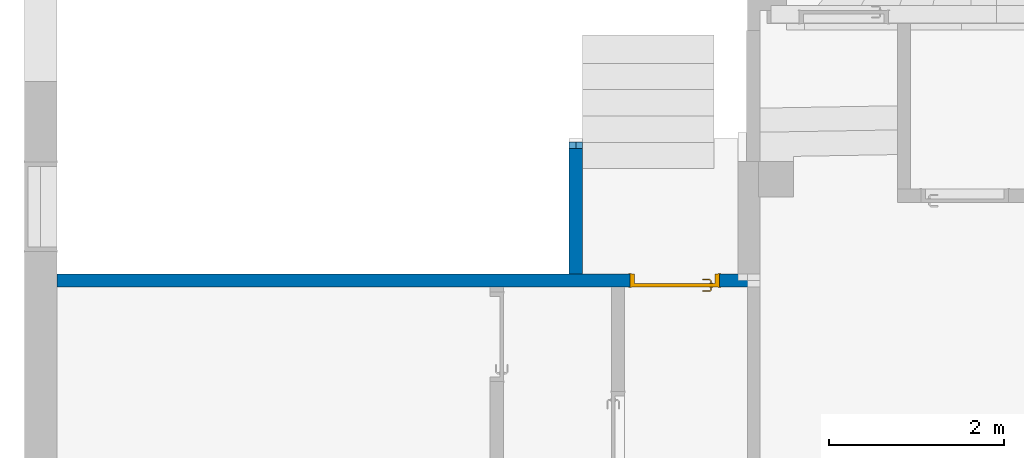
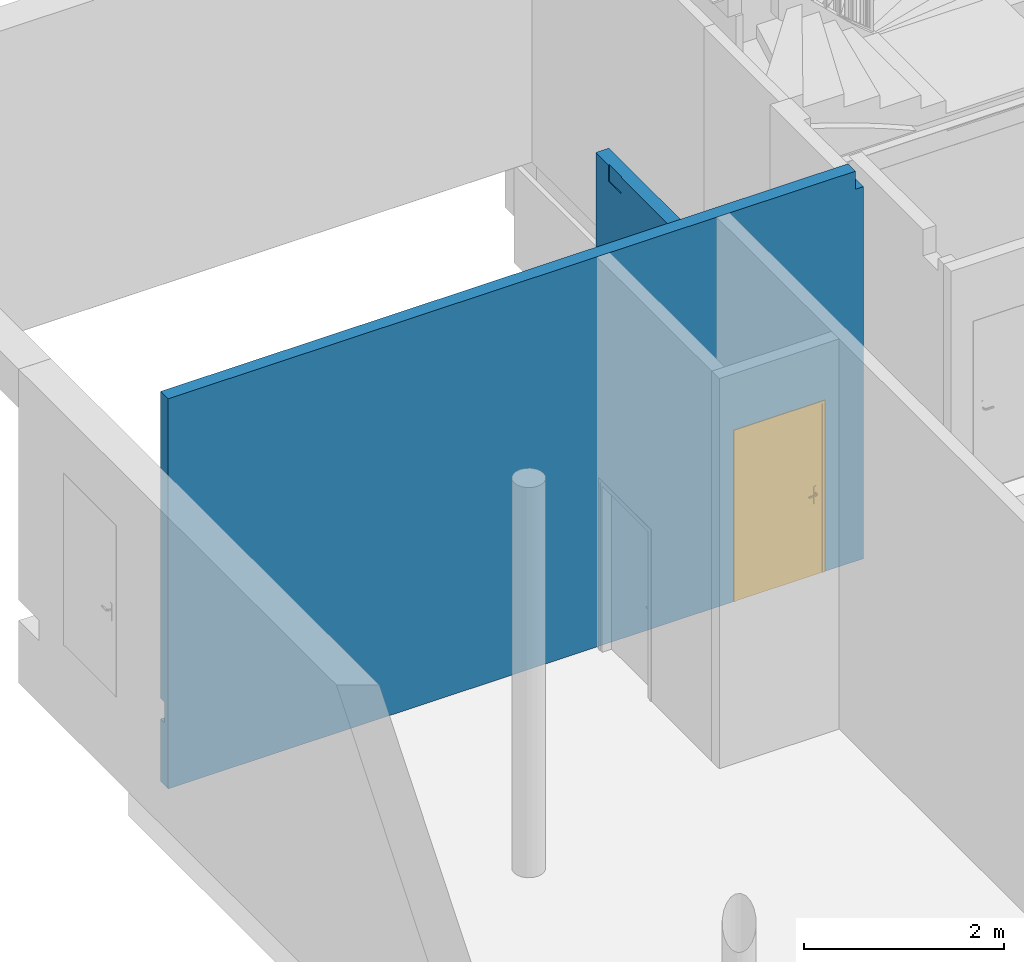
# One storey, part 26 of 39: 2 walls, 1 door, 2 openings.
"""IFC4 building model written with IfcOpenShell, lengths in metres."""

from ifc_helpers import new_model, entity, si_unit, converted_unit, derived_unit, direction, frame, origin, place, context, subcontext, project, spatial, indexed_curve, outline, extrude, polygons, source, transform, mapped, material, material_list, layer, layer_set, constituent, constituent_set, type_object, type_shapes, element, fill, save


model = new_model("IFC4")

# Units and contexts
model_context = context("Model", 3, precision=1e-05, world=origin(), true_north=direction((6.12303176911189e-17, 1.0)))
body_context = subcontext(model_context, "Body", "Model", "MODEL_VIEW")
ifc_project = project(units=[si_unit("LENGTHUNIT", "METRE"), si_unit("AREAUNIT", "SQUARE_METRE"), si_unit("VOLUMEUNIT", "CUBIC_METRE"), converted_unit("PLANEANGLEUNIT", "DEGREE", entity("IfcRatioMeasure", 0.0174532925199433), si_unit("PLANEANGLEUNIT", "RADIAN"), dimensions=[0, 0, 0, 0, 0, 0, 0]), si_unit("MASSUNIT", "GRAM", prefix="KILO"), derived_unit("MASSDENSITYUNIT", [(si_unit("MASSUNIT", "GRAM", prefix="KILO"), 1), (si_unit("LENGTHUNIT", "METRE"), -3)]), derived_unit("MOMENTOFINERTIAUNIT", [(si_unit("LENGTHUNIT", "METRE"), 4)]), si_unit("TIMEUNIT", "SECOND"), si_unit("FREQUENCYUNIT", "HERTZ"), si_unit("THERMODYNAMICTEMPERATUREUNIT", "DEGREE_CELSIUS"), derived_unit("THERMALTRANSMITTANCEUNIT", [(si_unit("MASSUNIT", "GRAM", prefix="KILO"), 1), (si_unit("THERMODYNAMICTEMPERATUREUNIT", "KELVIN"), -1), (si_unit("TIMEUNIT", "SECOND"), -3)]), derived_unit("VOLUMETRICFLOWRATEUNIT", [(si_unit("LENGTHUNIT", "METRE"), 3), (si_unit("TIMEUNIT", "SECOND"), -1)]), si_unit("ELECTRICCURRENTUNIT", "AMPERE"), si_unit("ELECTRICVOLTAGEUNIT", "VOLT"), si_unit("POWERUNIT", "WATT"), si_unit("FORCEUNIT", "NEWTON", prefix="KILO"), si_unit("ILLUMINANCEUNIT", "LUX"), si_unit("LUMINOUSFLUXUNIT", "LUMEN"), si_unit("LUMINOUSINTENSITYUNIT", "CANDELA"), derived_unit("USERDEFINED", [(si_unit("MASSUNIT", "GRAM", prefix="KILO"), -1), (si_unit("LENGTHUNIT", "METRE"), -2), (si_unit("TIMEUNIT", "SECOND"), 3), (si_unit("LUMINOUSFLUXUNIT", "LUMEN"), 1)]), derived_unit("LINEARVELOCITYUNIT", [(si_unit("LENGTHUNIT", "METRE"), 1), (si_unit("TIMEUNIT", "SECOND"), -1)]), si_unit("PRESSUREUNIT", "PASCAL"), derived_unit("USERDEFINED", [(si_unit("LENGTHUNIT", "METRE"), -2), (si_unit("MASSUNIT", "GRAM", prefix="KILO"), 1), (si_unit("TIMEUNIT", "SECOND"), -2)]), derived_unit("LINEARFORCEUNIT", [(si_unit("MASSUNIT", "GRAM", prefix="KILO"), 1), (si_unit("LENGTHUNIT", "METRE"), 1), (si_unit("TIMEUNIT", "SECOND"), -2), (si_unit("LENGTHUNIT", "METRE"), -1)]), derived_unit("PLANARFORCEUNIT", [(si_unit("MASSUNIT", "GRAM", prefix="KILO"), 1), (si_unit("LENGTHUNIT", "METRE"), 1), (si_unit("TIMEUNIT", "SECOND"), -2), (si_unit("LENGTHUNIT", "METRE"), -2)])], contexts=[model_context])

# Site, building, storey
site_placement = place(None, origin())
site = spatial("IfcSite", under=ifc_project, at=site_placement, Name="Default", CompositionType="ELEMENT")
building_placement = place(site_placement, origin())
building = spatial("IfcBuilding", under=site, at=building_placement, Name="HOTEL CONSULAIRE BOULOGNE SUR MER", CompositionType="ELEMENT")
storey_placement = place(building_placement, frame((0.0, 0.0, -5.02343668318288)))
storey = spatial("IfcBuildingStorey", under=building, at=storey_placement, Name="SS3", CompositionType="ELEMENT", Elevation=-5.02343668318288)

# Wall
ifc_material_1 = material(Name="Mur par défaut", Category="Divers")
ifc_layer = layer(ifc_material_1, 0.15, Name="Mur par défaut", Category="Divers")
ifc_layer_set = layer_set([ifc_layer], Name="Mur de base:Générique - Int. 150 mm")
wall_type = type_object("IfcWallType", Name="Mur de base:Générique - Int. 150 mm", PredefinedType="NOTDEFINED", material=ifc_layer_set)
wall_1_placement = place(storey_placement, frame((-7.55998856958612, -15.1715756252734, 0.0), z_axis=(0.0, 0.0, 1.0), x_axis=(0.0, -1.0, 0.0)))
element("IfcWall", 1, at=wall_1_placement, inside=storey, type_object=wall_type, material=ifc_layer_set, Name="Mur de base:Générique - Int. 150 mm", ObjectType="Mur de base:Générique - Int. 150 mm", PredefinedType="NOTDEFINED", context=body_context, shape_type="Tessellation", body=[
    polygons([(1.5030086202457, -0.0749999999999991, 1.01340592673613), (1.5030086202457, -0.0749999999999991, 4.75343668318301), (0.576334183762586, -0.0749999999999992, 4.75343668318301), (0.576334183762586, -0.0749999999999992, 4.55343668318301), (0.326334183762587, -0.0749999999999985, 4.55343668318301), (0.326334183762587, -0.0749999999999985, 4.75343668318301), (0.0750000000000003, -0.0749999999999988, 4.75343668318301), (0.0750000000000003, -0.0749999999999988, 1.01340592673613), (0.0, -0.0749999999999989, 0.0), (1.5030086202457, -0.0749999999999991, 0.0), (1.5030086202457, -0.0749999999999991, 0.763405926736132), (0.0, -0.0749999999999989, 0.763405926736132), (1.5030086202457, 0.0750000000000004, 0.0), (0.0, 0.0750000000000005, 0.0), (0.0, 0.0750000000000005, 0.763405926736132), (0.0, 0.0750000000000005, 1.01340592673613), (0.0750000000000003, 0.0750000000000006, 1.01340592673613), (0.0750000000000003, 0.0750000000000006, 4.75343668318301), (1.5030086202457, 0.0750000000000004, 4.75343668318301), (0.0, -0.0249999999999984, 0.0), (0.326334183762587, -0.0624805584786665, 4.75343668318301), (0.576334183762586, -0.0624805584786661, 4.75343668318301), (1.5030086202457, -9.38082501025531e-16, 1.01340592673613), (1.5030086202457, -9.38082501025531e-16, 0.763405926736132), (0.0, -8.35148925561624e-16, 0.763405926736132), (-2.16573425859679e-15, -0.0249999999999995, 0.763405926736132), (0.0750000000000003, -7.32215350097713e-16, 1.01340592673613), (0.0, -8.35148925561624e-16, 1.01340592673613), (0.576334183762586, -0.0624805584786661, 4.55343668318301), (0.326334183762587, -0.0624805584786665, 4.55343668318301)], [[[8, 1, 2, 3, 4, 5, 6, 7]], [[12, 9, 10, 11]], [[27, 28, 25, 24, 23]], [[29, 22, 21, 30]], [[19, 13, 14, 15, 16, 17, 18]], [[10, 9, 20, 14, 13]], [[8, 27, 23, 1]], [[3, 2, 19, 18, 7, 6, 21, 22]], [[26, 12, 11, 24, 25]], [[28, 27, 17, 16]], [[4, 29, 30, 5]], [[23, 24, 11, 10, 13, 19, 2, 1]], [[5, 30, 21, 6]], [[12, 26, 25, 28, 16, 15, 14, 20, 9]], [[27, 8, 7, 18, 17]], [[3, 22, 29, 4]]], closed=True),
])

# Wall, openings, door
wall_2_placement = place(storey_placement, frame((-13.4753496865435, -16.749584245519, 0.0)))
wall_2 = element("IfcWall", 2, at=wall_2_placement, inside=storey, type_object=wall_type, material=ifc_layer_set, Name="Mur de base:Générique - Int. 150 mm", ObjectType="Mur de base:Générique - Int. 150 mm", PredefinedType="NOTDEFINED", context=body_context, shape_type="Tessellation", body=[
    polygons([(8.01336111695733, 0.0749999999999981, 0.0), (8.01336111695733, -2.16573425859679e-15, 0.0), (8.01336111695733, -0.0750000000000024, 0.0), (7.87336111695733, -0.0750000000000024, 0.0), (7.55336111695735, -0.0750000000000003, 0.0), (7.55336111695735, 0.0750000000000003, 0.0), (7.76336111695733, 0.0749999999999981, 0.0), (-4.11668793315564e-16, -0.0750000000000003, 4.75343668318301), (-4.11668793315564e-16, -0.0750000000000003, 0.0), (4.93991151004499, -0.0750000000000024, 0.0), (5.08991151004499, -0.0750000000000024, 0.0), (6.32136111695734, -0.0750000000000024, 0.0), (6.47136111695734, -0.0750000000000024, 0.0), (6.53336111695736, -0.0750000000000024, 0.0), (6.53336111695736, -0.0750000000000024, 2.07500000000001), (7.55336111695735, -0.0750000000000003, 2.07500000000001), (8.01336111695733, -0.0750000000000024, 2.31999999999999), (8.01336111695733, -0.0750000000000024, 4.53343668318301), (7.95336111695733, -0.0750000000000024, 4.53343668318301), (7.92084154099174, -0.0750000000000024, 4.53343668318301), (7.92084154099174, -0.0750000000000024, 4.75343668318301), (7.87336111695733, -0.0750000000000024, 4.75343668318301), (6.47136111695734, -0.0750000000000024, 4.75343668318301), (6.32136111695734, -0.0750000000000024, 4.75343668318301), (5.08991151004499, -0.0750000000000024, 4.75343668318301), (4.93991151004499, -0.0750000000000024, 4.75343668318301), (-9.29332308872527e-16, 0.0750000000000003, 0.0), (-9.29332308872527e-16, 0.0750000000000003, 0.763405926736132), (5.84036111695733, 0.0749999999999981, 0.763405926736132), (5.91536111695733, 0.0749999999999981, 0.763405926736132), (5.91536111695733, 0.0749999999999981, 1.01340592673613), (5.84036111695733, 0.0749999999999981, 1.01340592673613), (-9.29332308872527e-16, 0.0750000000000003, 1.01340592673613), (-9.29332308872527e-16, 0.0750000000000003, 4.75343668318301), (5.84036111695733, 0.0749999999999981, 4.75343668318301), (5.99036111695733, 0.0749999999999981, 4.75343668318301), (7.76336111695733, 0.0749999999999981, 4.75343668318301), (7.92084154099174, 0.0749999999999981, 4.75343668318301), (7.92084154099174, 0.0749999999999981, 4.53343668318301), (8.01336111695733, 0.0749999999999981, 4.53343668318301), (8.01336111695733, 0.0749999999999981, 2.53499999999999), (8.01336111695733, 0.0749999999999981, 2.36499999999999), (7.55336111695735, 0.0750000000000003, 2.07500000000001), (6.53336111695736, 0.0749999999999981, 2.07500000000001), (6.53336111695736, 0.0749999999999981, 0.0), (5.99036111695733, 0.0749999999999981, 0.0), (5.84036111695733, 0.0749999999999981, 0.0), (-6.70500551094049e-16, 0.0, 1.01340592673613), (-6.70500551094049e-16, 0.0, 0.763405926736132), (5.91536111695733, 0.0, 0.763405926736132), (5.91536111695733, 0.0, 1.01340592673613)], [[[4, 5, 6, 7, 1, 2, 3]], [[45, 14, 13, 12, 11, 10, 9, 27, 47, 46]], [[32, 31, 51, 48, 33]], [[15, 44, 43, 16]], [[9, 10, 11, 12, 13, 14, 15, 16, 5, 4, 3, 17, 18, 19, 20, 21, 22, 23, 24, 25, 26, 8]], [[43, 44, 45, 46, 47, 27, 28, 29, 30, 31, 32, 33, 34, 35, 36, 37, 38, 39, 40, 41, 42, 1, 7, 6]], [[51, 50, 49, 48]], [[24, 23, 22, 21, 38, 37, 36, 35, 34, 8, 26, 25]], [[29, 28, 49, 50, 30]], [[40, 39, 20, 19, 18]], [[48, 49, 28, 27, 9, 8, 34, 33]], [[31, 30, 50, 51]], [[16, 43, 6, 5]], [[14, 45, 44, 15]], [[3, 2, 1, 42, 41, 40, 18, 17]], [[38, 21, 20, 39]]], closed=True),
])
opening_1_placement = place(storey_placement, frame((-13.4753496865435, -16.749584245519, 0.0)))
element("IfcOpeningElement", 3, at=opening_1_placement, cuts=wall_2, Name="Mur de base:Générique - Int. 150 mm:1", ObjectType="Opening", PredefinedType="OPENING", context=body_context, shape_type="SweptSolid", body=[
    extrude(outline(indexed_curve([(-3.5342166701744, -0.0449999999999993), (2.38114444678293, -0.0449999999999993), (2.38114444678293, 0.0299999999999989), (2.30614444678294, 0.0299999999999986), (-3.5342166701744, 0.030000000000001), (-3.5342166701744, -0.0449999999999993)], self_intersect=False)), frame((3.5342166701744, 0.0449999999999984, 0.763405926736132)), (0.0, 0.0, 1.0), 0.25),
])
opening_2_placement = place(wall_2_placement, frame((7.55336111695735, 0.0749999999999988, 0.0)))
opening_2 = element("IfcOpeningElement", 4, at=opening_2_placement, cuts=wall_2, Name="Int. Simple:PP0.95x2.04 2:1", ObjectType="Opening", PredefinedType="OPENING", context=body_context, shape_type="SweptSolid", body=[
    extrude(outline(indexed_curve([(0.0, 1.02), (0.0, -2.8028040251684e-30), (2.07500000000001, -2.8028040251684e-30), (2.07500000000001, 1.02), (0.0, 1.02)], self_intersect=False)), frame((0.0, 0.0, 0.0), z_axis=(0.0, -1.0, 0.0), x_axis=(0.0, 0.0, 1.0)), (0.0, 0.0, 1.0), 0.15),
])
ifc_material_2 = material(Name="Finition Peinture - Blanc satiné", Category="Peinture")
ifc_constituent_1 = constituent(ifc_material_2, Name="Finition Peinture - Blanc satiné", Category="Matériaux")
ifc_material_3 = material(Name="Bois - Panneau de porte", Category="Bois")
ifc_constituent_2 = constituent(ifc_material_3, Name="Bois - Panneau de porte", Category="Matériaux")
ifc_material_4 = material(Name="Bois - Cadre de porte", Category="Bois")
ifc_constituent_3 = constituent(ifc_material_4, Name="Bois - Cadre de porte", Category="Matériaux")
ifc_constituent_set = constituent_set(constituents=[ifc_constituent_1, ifc_constituent_2, ifc_constituent_3], Name="MaterialConstituentSet")
ifc_material_list = material_list([ifc_material_4, ifc_material_4, ifc_material_3, ifc_material_2])
door_type = type_object("IfcDoorType", Name="Int. Simple:PP0.95x2.04 2", OperationType="NOTDEFINED", PredefinedType="DOOR", material=ifc_material_list)
shared_shape = source(origin(), body_context, "Body", "Tessellation", [
    polygons([(1.01500000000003, -0.00500000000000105, 0.870000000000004), (1.01500000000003, -0.00500000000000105, 1.08), (1.00535276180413, -0.00500000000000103, 1.08399601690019), (0.99500000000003, -0.00500000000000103, 1.08535898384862), (0.984647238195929, -0.00500000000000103, 1.08399601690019), (0.97500000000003, -0.00500000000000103, 1.08), (0.975000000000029, -0.00500000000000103, 0.870000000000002), (0.984647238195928, -0.00500000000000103, 0.866003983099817), (0.995000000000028, -0.00500000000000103, 0.86464101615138), (1.00535276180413, -0.00500000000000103, 0.866003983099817), (1.01500000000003, -1.04902753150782e-15, 0.870000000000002), (1.00535276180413, -1.04902753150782e-15, 0.866003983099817), (0.995000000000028, -1.04056763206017e-15, 0.86464101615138), (0.984647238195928, -1.04056763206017e-15, 0.866003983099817), (0.975000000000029, -1.03210773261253e-15, 0.870000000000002), (0.97500000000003, -1.03210773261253e-15, 1.08), (0.984647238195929, -1.04056763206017e-15, 1.08399601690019), (0.99500000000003, -1.04056763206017e-15, 1.08535898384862), (1.00535276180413, -1.04902753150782e-15, 1.08399601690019), (1.01500000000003, -1.04902753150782e-15, 1.08)], [[[1, 2, 3, 4, 5, 6, 7, 8, 9, 10]], [[20, 11, 12, 13, 14, 15, 16, 17, 18, 19]], [[10, 12, 11, 1]], [[9, 13, 12, 10]], [[8, 14, 13, 9]], [[8, 7, 15, 14]], [[15, 7, 6, 16]], [[5, 17, 16, 6]], [[4, 18, 17, 5]], [[3, 19, 18, 4]], [[3, 2, 20, 19]], [[11, 20, 2, 1]]], closed=True),
    polygons([(0.97500000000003, 0.0399999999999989, 1.08), (0.975000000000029, 0.0399999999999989, 0.870000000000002), (0.984647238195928, 0.0399999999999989, 0.866003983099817), (0.995000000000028, 0.0399999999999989, 0.86464101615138), (1.00535276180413, 0.0399999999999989, 0.866003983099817), (1.01500000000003, 0.0399999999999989, 0.870000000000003), (1.01500000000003, 0.0399999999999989, 1.08), (1.00535276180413, 0.0399999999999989, 1.08399601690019), (0.99500000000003, 0.0399999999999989, 1.08535898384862), (0.984647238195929, 0.0399999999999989, 1.08399601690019), (0.97500000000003, 0.044999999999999, 1.08), (0.984647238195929, 0.0449999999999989, 1.08399601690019), (0.99500000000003, 0.0449999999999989, 1.08535898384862), (1.00535276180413, 0.0449999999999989, 1.08399601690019), (1.01500000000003, 0.0449999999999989, 1.08), (1.01500000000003, 0.0449999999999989, 0.870000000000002), (1.00535276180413, 0.0449999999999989, 0.866003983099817), (0.995000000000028, 0.0449999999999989, 0.86464101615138), (0.984647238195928, 0.0449999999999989, 0.866003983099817), (0.975000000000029, 0.044999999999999, 0.870000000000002)], [[[6, 7, 8, 9, 10, 1, 2, 3, 4, 5]], [[13, 14, 15, 16, 17, 18, 19, 20, 11, 12]], [[10, 12, 11, 1]], [[9, 13, 12, 10]], [[8, 14, 13, 9]], [[8, 7, 15, 14]], [[16, 15, 7, 6]], [[5, 17, 16, 6]], [[4, 18, 17, 5]], [[3, 19, 18, 4]], [[3, 2, 20, 19]], [[20, 2, 1, 11]]], closed=True),
    polygons([(1.00100000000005, -0.00500000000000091, 1.00699999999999), (1.00100000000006, -0.00500000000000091, 0.992999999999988), (0.997025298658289, -0.00500000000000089, 0.99221955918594), (0.99297470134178, -0.00500000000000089, 0.992219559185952), (0.989000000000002, -0.00500000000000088, 0.993000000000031), (0.989000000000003, -0.00500000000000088, 1.007), (0.992974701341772, -0.00500000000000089, 1.00778044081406), (0.997025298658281, -0.00500000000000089, 1.00778044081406), (0.989000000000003, -0.0276803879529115, 1.007), (0.992974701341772, -0.0293267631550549, 1.00778044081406), (0.997025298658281, -0.0310045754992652, 1.00778044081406), (1.00100000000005, -0.0326509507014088, 1.007), (0.989000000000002, -0.0276803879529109, 0.993000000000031), (1.00100000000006, -0.0326509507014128, 0.992999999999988), (0.997025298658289, -0.0310045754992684, 0.99221955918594), (0.99297470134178, -0.0293267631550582, 0.992219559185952), (0.977652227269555, -0.0390281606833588, 1.007), (0.979298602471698, -0.0430028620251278, 1.00778044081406), (0.980976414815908, -0.0470534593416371, 1.00778044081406), (0.982622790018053, -0.051028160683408, 1.007), (0.977652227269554, -0.0390281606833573, 0.993000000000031), (0.982622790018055, -0.0510281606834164, 0.992999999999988), (0.980976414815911, -0.0470534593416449, 0.99221955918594), (0.979298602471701, -0.0430028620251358, 0.992219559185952), (0.894981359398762, -0.0510281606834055, 1.007), (0.894981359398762, -0.0470534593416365, 1.00778044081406), (0.894981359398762, -0.0430028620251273, 1.00778044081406), (0.894981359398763, -0.0390281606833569, 1.00699999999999), (0.894981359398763, -0.0390281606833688, 0.993000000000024), (0.894981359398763, -0.0430028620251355, 0.992219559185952), (0.894981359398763, -0.0470534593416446, 0.99221955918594), (0.894981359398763, -0.0510281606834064, 0.992999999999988), (0.942692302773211, -0.051028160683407, 1.007), (0.937139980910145, -0.045028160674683, 1.0078786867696), (0.936316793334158, -0.0390281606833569, 1.007), (0.942692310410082, -0.0510281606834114, 0.992999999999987), (0.937139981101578, -0.0450281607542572, 0.992121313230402), (0.936316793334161, -0.0390281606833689, 0.993000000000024)], [[[7, 8, 1, 2, 3, 4, 5, 6]], [[17, 21, 38, 29, 28, 35]], [[1, 8, 11, 12]], [[8, 7, 10, 18, 19, 11]], [[7, 6, 9, 10]], [[13, 9, 6, 5]], [[25, 26, 27, 28, 29, 30, 31, 32]], [[4, 16, 13, 5]], [[4, 3, 15, 23, 24, 16]], [[2, 14, 15, 3]], [[12, 14, 2, 1]], [[12, 11, 19, 20]], [[10, 9, 17, 18]], [[21, 17, 9, 13]], [[13, 16, 24, 21]], [[15, 14, 22, 23]], [[20, 22, 14, 12]], [[34, 26, 33]], [[33, 26, 25]], [[33, 20, 19]], [[18, 35, 34]], [[35, 18, 17]], [[28, 27, 35]], [[34, 27, 26]], [[34, 35, 27]], [[34, 33, 19]], [[18, 34, 19]], [[37, 30, 38]], [[31, 37, 36]], [[24, 38, 21]], [[30, 29, 38]], [[31, 36, 32]], [[36, 23, 22]], [[37, 23, 36]], [[37, 24, 23]], [[37, 38, 24]], [[30, 37, 31]], [[22, 20, 33, 25, 32, 36]]], closed=True),
    polygons([(0.989000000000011, 0.0449999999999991, 0.993000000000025), (0.992974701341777, 0.0449999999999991, 0.992219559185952), (0.997025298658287, 0.0449999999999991, 0.99221955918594), (1.00100000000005, 0.0449999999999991, 0.992999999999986), (1.00100000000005, 0.0449999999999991, 1.007), (0.997025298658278, 0.0449999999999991, 1.00778044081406), (0.992974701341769, 0.0449999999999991, 1.00778044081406), (0.988999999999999, 0.0449999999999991, 1.007), (0.988999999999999, 0.067485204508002, 1.007), (0.988999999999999, 0.0674852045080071, 0.993000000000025), (1.00100000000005, 0.0724557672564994, 1.007), (0.997025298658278, 0.070809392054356, 1.00778044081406), (0.992974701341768, 0.0691315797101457, 1.00778044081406), (1.00100000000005, 0.0724557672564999, 0.992999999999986), (0.992974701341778, 0.0691315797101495, 0.992219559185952), (0.997025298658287, 0.0708093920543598, 0.99221955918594), (0.97751471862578, 0.0789704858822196, 1.007), (0.977514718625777, 0.0789704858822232, 0.993000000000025), (0.982485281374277, 0.0909704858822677, 1.007), (0.980838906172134, 0.0869957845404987, 1.00778044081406), (0.979161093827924, 0.0829451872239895, 1.00778044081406), (0.982485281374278, 0.0909704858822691, 0.992999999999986), (0.979161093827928, 0.0829451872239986, 0.992219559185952), (0.980838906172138, 0.0869957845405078, 0.99221955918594), (0.894954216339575, 0.0789704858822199, 0.993000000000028), (0.894954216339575, 0.0789704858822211, 1.007), (0.894954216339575, 0.0829451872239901, 1.00778044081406), (0.894954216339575, 0.0869957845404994, 1.00778044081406), (0.894954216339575, 0.0909704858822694, 1.007), (0.894954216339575, 0.0909704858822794, 0.992999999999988), (0.894954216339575, 0.086995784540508, 0.99221955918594), (0.894954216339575, 0.0829451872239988, 0.992219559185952), (0.94255479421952, 0.0909704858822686, 1.007), (0.937057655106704, 0.0849704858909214, 1.0078786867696), (0.936234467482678, 0.0789704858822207, 1.007), (0.942554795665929, 0.0909704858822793, 0.992999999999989), (0.937057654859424, 0.0849704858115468, 0.992121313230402), (0.936234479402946, 0.0789704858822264, 0.993000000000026)], [[[2, 3, 4, 5, 6, 7, 8, 1]], [[18, 17, 35, 26, 25, 38]], [[9, 10, 1, 8]], [[27, 28, 29, 30, 31, 32, 25, 26]], [[7, 13, 9, 8]], [[7, 6, 12, 20, 21, 13]], [[5, 11, 12, 6]], [[11, 5, 4, 14]], [[4, 3, 16, 14]], [[3, 2, 15, 23, 24, 16]], [[2, 1, 10, 15]], [[17, 18, 10, 9]], [[9, 13, 21, 17]], [[11, 19, 20, 12]], [[22, 19, 11, 14]], [[14, 16, 24, 22]], [[15, 10, 18, 23]], [[34, 27, 35]], [[28, 34, 33]], [[21, 35, 17]], [[27, 26, 35]], [[28, 33, 29]], [[33, 20, 19]], [[34, 20, 33]], [[34, 21, 20]], [[34, 35, 21]], [[27, 34, 28]], [[19, 22, 36, 30, 29, 33]], [[37, 31, 36]], [[36, 31, 30]], [[36, 22, 24]], [[23, 38, 37]], [[38, 23, 18]], [[25, 32, 38]], [[37, 32, 31]], [[37, 38, 32]], [[37, 36, 24]], [[23, 37, 24]]], closed=True),
    polygons([(1.05500000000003, 0.04, 2.04), (1.05500000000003, 0.04, 0.0), (0.105000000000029, 0.04, 0.0), (0.105000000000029, 0.04, 2.04), (1.05500000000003, 5.07593966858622e-17, 2.04), (0.105000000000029, 5.07593966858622e-17, 2.04), (0.105000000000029, 5.07593966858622e-17, 0.0), (1.05500000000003, 5.07593966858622e-17, 0.0)], [[[4, 1, 2, 3]], [[5, 6, 7, 8]], [[5, 1, 4, 6]], [[6, 4, 3, 7]], [[7, 3, 2, 8]], [[8, 2, 1, 5]]], closed=True),
    polygons([(1.09000000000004, 1.69197988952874e-17, 0.0), (1.05500000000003, 1.69197988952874e-17, 0.0), (1.05500000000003, 0.0400000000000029, 0.0), (1.04000000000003, 0.0400000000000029, 0.0), (1.04000000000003, 0.150000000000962, 0.0), (1.09000000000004, 0.150000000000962, 0.0), (1.09000000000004, 0.150000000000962, 2.07500000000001), (1.09000000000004, 1.69197988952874e-17, 2.07500000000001), (1.04000000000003, 0.150000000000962, 2.025), (0.120000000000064, 0.150000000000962, 2.02499999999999), (0.120000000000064, 0.150000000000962, -4.03399441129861e-24), (0.0700000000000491, 0.150000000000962, 0.0), (0.0700000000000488, 0.150000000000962, 2.07500000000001), (1.04000000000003, 0.0400000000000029, 2.025), (1.05500000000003, 0.0400000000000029, 2.04), (0.105000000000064, 0.0400000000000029, 2.04), (0.105000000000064, 0.0400000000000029, -4.10371669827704e-24), (0.120000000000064, 0.0400000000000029, -1.38450562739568e-24), (0.120000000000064, 0.0400000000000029, 2.025), (1.05500000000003, 1.69197988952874e-17, 2.04), (0.0700000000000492, 1.69197988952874e-17, 2.07500000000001), (0.0700000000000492, 1.69197988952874e-17, -2.45203524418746e-24), (0.105000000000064, 1.69197988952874e-17, -8.70076159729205e-25), (0.105000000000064, 1.69197988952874e-17, 2.04)], [[[5, 6, 1, 2, 3, 4]], [[17, 23, 22, 12, 11, 18]], [[19, 10, 9, 14]], [[24, 16, 15, 20]], [[7, 8, 1, 6]], [[18, 11, 10, 19]], [[17, 16, 24, 23]], [[9, 10, 11, 12, 13, 7, 6, 5]], [[9, 5, 4, 14]], [[15, 3, 2, 20]], [[12, 22, 21, 13]], [[19, 14, 4, 3, 15, 16, 17, 18]], [[24, 20, 2, 1, 8, 21, 22, 23]], [[13, 21, 8, 7]]], closed=True),
    polygons([(1.07500000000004, 0.150000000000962, 0.0), (1.07500000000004, 0.155000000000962, 0.0), (1.10500000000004, 0.155000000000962, 0.0), (1.10500000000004, 0.150000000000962, 0.0), (1.10500000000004, 0.150000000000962, 2.09000000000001), (0.0550000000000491, 0.150000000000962, 2.09000000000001), (0.0550000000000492, 0.150000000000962, 3.21152985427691e-24), (0.0850000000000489, 0.150000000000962, 7.44135198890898e-25), (0.0850000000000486, 0.150000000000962, 2.06000000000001), (1.07500000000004, 0.150000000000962, 2.06000000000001), (1.10500000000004, 0.155000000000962, 2.09000000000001), (1.07500000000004, 0.155000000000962, 2.06000000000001), (0.085000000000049, 0.155000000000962, 2.06000000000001), (0.0850000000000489, 0.155000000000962, 5.65531304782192e-24), (0.0550000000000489, 0.155000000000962, 4.82535527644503e-25), (0.0550000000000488, 0.155000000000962, 2.09000000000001)], [[[2, 3, 4, 1]], [[7, 15, 14, 8]], [[9, 13, 12, 10]], [[9, 10, 1, 4, 5, 6, 7, 8]], [[11, 5, 4, 3]], [[8, 14, 13, 9]], [[12, 13, 14, 15, 16, 11, 3, 2]], [[12, 2, 1, 10]], [[15, 7, 6, 16]], [[16, 6, 5, 11]]], closed=True),
    polygons([(1.07500000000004, -0.00499999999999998, 0.0), (1.07500000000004, 1.69197988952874e-17, 0.0), (1.10500000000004, 1.69197988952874e-17, 0.0), (1.10500000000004, -0.00499999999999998, 0.0), (0.0850000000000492, -0.00499999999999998, 0.0), (0.0550000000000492, -0.00499999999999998, 0.0), (0.0550000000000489, 1.69197988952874e-17, 0.0), (0.0850000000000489, 1.69197988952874e-17, 0.0), (1.10500000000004, -0.00499999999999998, 2.09000000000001), (0.0550000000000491, -0.00499999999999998, 2.09000000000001), (0.0850000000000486, -0.00499999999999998, 2.06000000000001), (1.07500000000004, -0.00499999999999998, 2.06000000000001), (1.10500000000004, 1.69197988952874e-17, 2.09000000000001), (1.07500000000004, 1.69197988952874e-17, 2.06000000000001), (0.085000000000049, 1.69197988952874e-17, 2.06000000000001), (0.0550000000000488, 1.69197988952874e-17, 2.09000000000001)], [[[2, 3, 4, 1]], [[6, 7, 8, 5]], [[11, 15, 14, 12]], [[11, 12, 1, 4, 9, 10, 6, 5]], [[13, 9, 4, 3]], [[5, 8, 15, 11]], [[14, 15, 8, 7, 16, 13, 3, 2]], [[14, 2, 1, 12]], [[7, 6, 10, 16]], [[16, 10, 9, 13]]], closed=True),
])
type_shapes(door_type, [shared_shape])
door_placement = place(opening_2_placement, frame((-1.09000000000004, -0.150000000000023, 0.0)))
door = element("IfcDoor", 5, at=door_placement, inside=storey, type_object=door_type, material=ifc_constituent_set, Name="Int. Simple:PP0.95x2.04 2", ObjectType="Int. Simple:PP0.95x2.04 2", OperationType="NOTDEFINED", OverallHeight=2.07500000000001, OverallWidth=1.02, PredefinedType="DOOR", context=body_context, shape_type="MappedRepresentation", body=[
    mapped(shared_shape, transform((0.0, 0.0, 0.0), scale=1.0)),
])
fill(opening_2, door)

save(model, "model.ifc")
